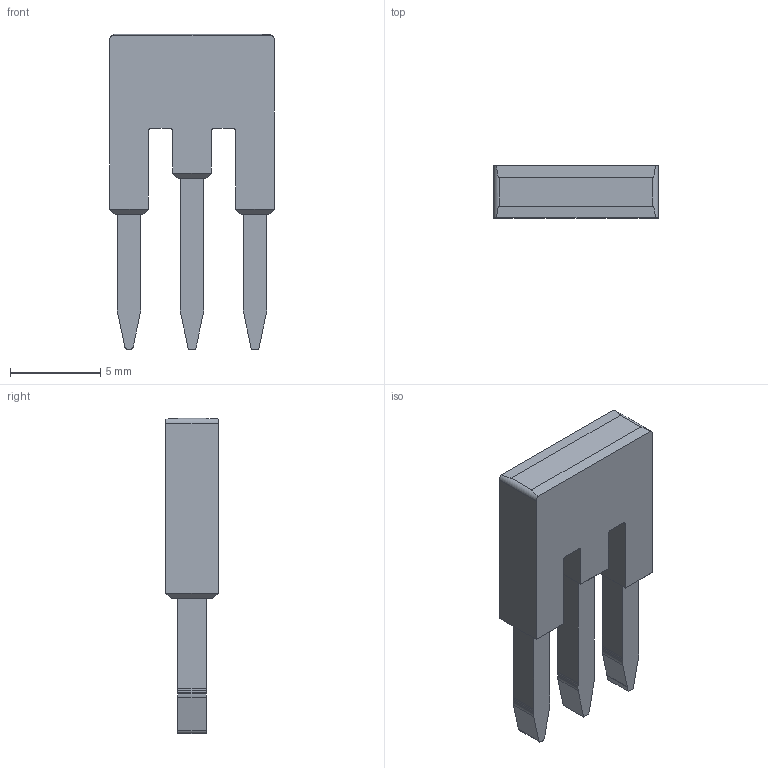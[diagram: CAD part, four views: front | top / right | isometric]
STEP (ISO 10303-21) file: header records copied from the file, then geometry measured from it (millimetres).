
FILE_DESCRIPTION (( 'STEP AP214' ), '1' );
FILE_NAME ('SBF-3-3.5.STEP', '2026-03-30T14:12:48', ( '' ), ( '' ), 'SwSTEP 2.0', 'SolidWorks 2022', '' );
FILE_SCHEMA (( 'AUTOMOTIVE_DESIGN' ));
Length unit declared in the file: millimetre
Products named in the file (1): SBF-3-3.5
Bounding box: 9.15 x 2.9 x 17.5 mm (x, y, z)
Volume: 258.7 mm3; surface area: 426.3 mm2
Topology: 1 solids, 1 shells, 87 faces, 234 edges, 152 vertices
Faces by surface type: plane 58, cylinder 29
Entity records: 2757 total; most frequent: CARTESIAN_POINT 519, ORIENTED_EDGE 468, DIRECTION 453, EDGE_CURVE 234, LINE 161, VECTOR 161, VERTEX_POINT 152, AXIS2_PLACEMENT_3D 146
